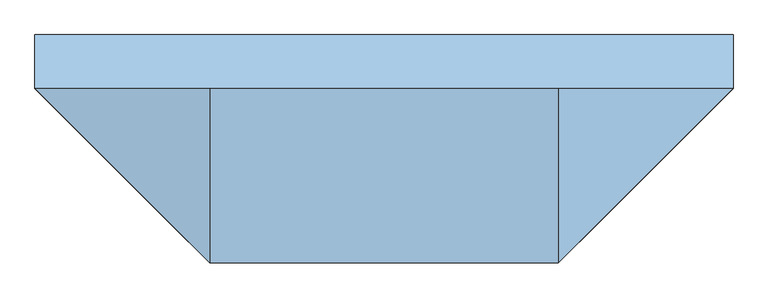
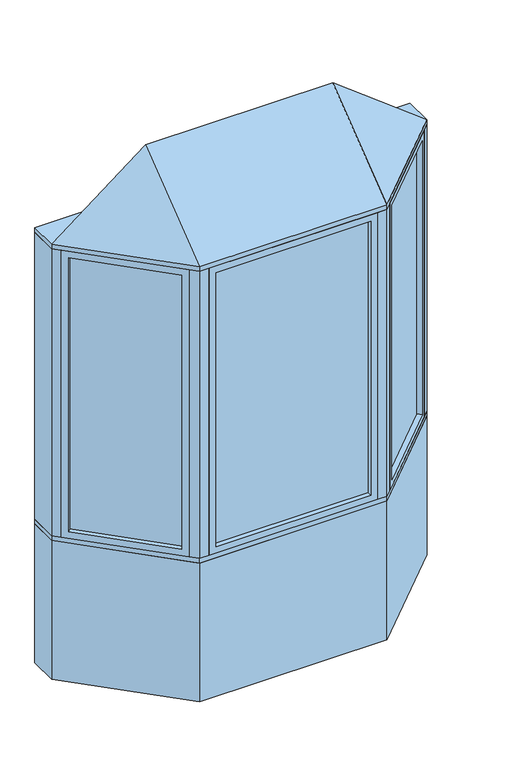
"""IFC4 building model written with IfcOpenShell, lengths in millimetres: window geometry, Pollard_Windows_Tudor Casement Bows and Bays : AML-BAY 45 AFR0516-10-600."""

from ifc_helpers import new_model, si_unit, frame, origin, origin_with_axes, place, context, project, spatial, polyline, outline, extrude, faceted_brep, source, transform, mapped, element, save


def window_58309fd9(model_context):
    return source(origin(), model_context, "Body", "SolidModel", [
        extrude(outline(polyline([(924.0964271, -104.763169), (528.474814, -500.3847822), (524.8827115, -496.7926797), (920.5043247, -101.1710666), (924.0964271, -104.763169)])), frame((0.0, 0.0, 823.1628), z_axis=(0.0, 0.0, 1.0), x_axis=(1.0, 0.0, 0.0)), (0.0, 0.0, 1.0), 1553.6704),
        faceted_brep([(915.116171, -113.7434252, 835.8628), (933.0766833, -131.7039374, 835.8628), (933.0766833, -131.7039374, 2364.1332), (915.116171, -113.7434252, 2364.1332), (920.5043247, -101.1710666, 823.1628), (924.0964271, -104.763169, 823.1628), (924.0964271, -104.763169, 2376.8332), (920.5043247, -101.1710666, 2376.8332), (893.5635563, -92.1908105, 835.8628), (911.5240686, -110.1513227, 835.8628), (911.5240686, -110.1513227, 2364.1332), (893.5635563, -92.1908105, 2364.1332), (958.4369265, -106.3436941, 799.998), (918.9237996, -66.8305672, 799.998), (918.9237996, -66.8305672, 2399.998), (958.4369265, -106.3436941, 2399.998), (555.4155823, -509.3650383, 2364.1332), (537.4550701, -491.4045261, 2364.1332), (528.474814, -500.3847822, 2376.8332), (524.8827115, -496.7926797, 2376.8332), (533.8629677, -487.8124236, 2364.1332), (515.9024554, -469.8519114, 2364.1332), (490.5422121, -495.2121547, 2399.998), (530.0553391, -534.7252816, 2399.998), (555.4155823, -509.3650383, 835.8628), (537.4550701, -491.4045261, 835.8628), (528.474814, -500.3847822, 823.1628), (524.8827115, -496.7926797, 823.1628), (533.8629677, -487.8124236, 835.8628), (515.9024554, -469.8519114, 835.8628), (490.5422121, -495.2121547, 799.998), (530.0553391, -534.7252816, 799.998)], [[[0, 1, 2, 3]], [[4, 5, 6, 7]], [[8, 9, 10, 11]], [[12, 13, 14, 15]], [[3, 2, 16, 17]], [[7, 6, 18, 19]], [[11, 10, 20, 21]], [[15, 14, 22, 23]], [[17, 16, 24, 25]], [[19, 18, 26, 27]], [[21, 20, 28, 29]], [[23, 22, 30, 31]], [[25, 24, 1, 0]], [[5, 26, 18, 6], [3, 17, 25, 0]], [[27, 26, 5, 4]], [[7, 19, 27, 4], [9, 28, 20, 10]], [[29, 28, 9, 8]], [[13, 30, 22, 14], [11, 21, 29, 8]], [[31, 30, 13, 12]], [[15, 23, 31, 12], [1, 24, 16, 2]]]),
        extrude(outline(polyline([(-528.474814, -500.3847822), (-924.0964271, -104.763169), (-920.5043247, -101.1710666), (-524.8827115, -496.7926797), (-528.474814, -500.3847822)])), frame((0.0, 0.0, 823.1628), z_axis=(0.0, 0.0, 1.0), x_axis=(1.0, 0.0, 0.0)), (0.0, 0.0, 1.0), 1553.6704),
        faceted_brep([(-533.8629677, -487.8124236, 2364.1332), (-515.9024554, -469.8519114, 2364.1332), (-515.9024554, -469.8519114, 835.8628), (-533.8629677, -487.8124236, 835.8628), (-528.474814, -500.3847822, 2376.8332), (-524.8827115, -496.7926797, 2376.8332), (-524.8827115, -496.7926797, 823.1628), (-528.474814, -500.3847822, 823.1628), (-555.4155823, -509.3650383, 2364.1332), (-537.4550701, -491.4045261, 2364.1332), (-537.4550701, -491.4045261, 835.8628), (-555.4155823, -509.3650383, 835.8628), (-490.5422121, -495.2121547, 2399.998), (-530.0553391, -534.7252816, 2399.998), (-530.0553391, -534.7252816, 799.998), (-490.5422121, -495.2121547, 799.998), (-893.5635563, -92.1908105, 835.8628), (-911.5240686, -110.1513227, 835.8628), (-920.5043247, -101.1710666, 823.1628), (-924.0964271, -104.763169, 823.1628), (-915.116171, -113.7434252, 835.8628), (-933.0766833, -131.7039374, 835.8628), (-958.4369265, -106.3436941, 799.998), (-918.9237996, -66.8305672, 799.998), (-893.5635563, -92.1908105, 2364.1332), (-911.5240686, -110.1513227, 2364.1332), (-920.5043247, -101.1710666, 2376.8332), (-924.0964271, -104.763169, 2376.8332), (-915.116171, -113.7434252, 2364.1332), (-933.0766833, -131.7039374, 2364.1332), (-958.4369265, -106.3436941, 2399.998), (-918.9237996, -66.8305672, 2399.998)], [[[0, 1, 2, 3]], [[4, 5, 6, 7]], [[8, 9, 10, 11]], [[12, 13, 14, 15]], [[3, 2, 16, 17]], [[7, 6, 18, 19]], [[11, 10, 20, 21]], [[15, 14, 22, 23]], [[17, 16, 24, 25]], [[19, 18, 26, 27]], [[21, 20, 28, 29]], [[23, 22, 30, 31]], [[15, 23, 31, 12], [1, 24, 16, 2]], [[25, 24, 1, 0]], [[5, 26, 18, 6], [3, 17, 25, 0]], [[27, 26, 5, 4]], [[7, 19, 27, 4], [9, 28, 20, 10]], [[29, 28, 9, 8]], [[13, 30, 22, 14], [11, 21, 29, 8]], [[31, 30, 13, 12]]]),
        extrude(outline(polyline([(421.5352, -544.6806207), (-421.5352, -544.6806207), (-421.5352, -539.6006207), (421.5352, -539.6006207), (421.5352, -544.6806207)])), frame((0.0, 0.0, 823.1628), z_axis=(0.0, 0.0, 1.0), x_axis=(1.0, 0.0, 0.0)), (0.0, 0.0, 1.0), 1553.6704),
        faceted_brep([(408.8352, -544.6806207, 835.8628), (408.8352, -570.0806207, 835.8628), (408.8352, -570.0806207, 2364.1332), (408.8352, -544.6806207, 2364.1332), (421.5352, -539.6006207, 823.1628), (421.5352, -544.6806207, 823.1628), (421.5352, -544.6806207, 2376.8332), (421.5352, -539.6006207, 2376.8332), (408.8352, -514.2006207, 835.8628), (408.8352, -539.6006207, 835.8628), (408.8352, -539.6006207, 2364.1332), (408.8352, -514.2006207, 2364.1332), (444.7, -570.0806207, 799.998), (444.7, -514.2006207, 799.998), (444.7, -514.2006207, 2399.998), (444.7, -570.0806207, 2399.998), (-408.8352, -570.0806207, 2364.1332), (-408.8352, -544.6806207, 2364.1332), (-421.5352, -544.6806207, 2376.8332), (-421.5352, -539.6006207, 2376.8332), (-408.8352, -539.6006207, 2364.1332), (-408.8352, -514.2006207, 2364.1332), (-444.7, -514.2006207, 2399.998), (-444.7, -570.0806207, 2399.998), (-408.8352, -570.0806207, 835.8628), (-408.8352, -544.6806207, 835.8628), (-421.5352, -544.6806207, 823.1628), (-421.5352, -539.6006207, 823.1628), (-408.8352, -539.6006207, 835.8628), (-408.8352, -514.2006207, 835.8628), (-444.7, -514.2006207, 799.998), (-444.7, -570.0806207, 799.998)], [[[0, 1, 2, 3]], [[4, 5, 6, 7]], [[8, 9, 10, 11]], [[12, 13, 14, 15]], [[3, 2, 16, 17]], [[7, 6, 18, 19]], [[11, 10, 20, 21]], [[15, 14, 22, 23]], [[17, 16, 24, 25]], [[19, 18, 26, 27]], [[21, 20, 28, 29]], [[23, 22, 30, 31]], [[15, 23, 31, 12], [1, 24, 16, 2]], [[25, 24, 1, 0]], [[5, 26, 18, 6], [3, 17, 25, 0]], [[27, 26, 5, 4]], [[7, 19, 27, 4], [9, 28, 20, 10]], [[29, 28, 9, 8]], [[13, 30, 22, 14], [11, 21, 29, 8]], [[31, 30, 13, 12]]]),
        faceted_brep([(990.0, -74.7806207, 2425.398), (494.7, -570.0806207, 2425.398), (-494.7, -570.0806207, 2425.398), (-990.0, -74.7806207, 2425.398), (-494.7, -74.7806207, 2806.398), (494.7, -74.7806207, 2806.398)], [[[0, 1, 2, 3]], [[3, 2, 4]], [[2, 1, 5, 4]], [[1, 0, 5]], [[0, 3, 4, 5]]]),
        extrude(outline(polyline([(-990.0, 77.6193793), (990.0, 77.6193793), (990.0, -74.7806207), (494.7, -570.0806207), (-494.7, -570.0806207), (-990.0, -74.7806207), (-990.0, 77.6193793)])), frame((0.0, 0.0, 2399.998), z_axis=(0.0, 0.0, 1.0), x_axis=(1.0, 0.0, 0.0)), (0.0, 0.0, 1.0), 25.4),
        extrude(outline(polyline([(-990.0, -74.7806207), (-990.0, 77.6193793), (-926.8738531, 77.6193793), (-926.8738531, -74.7806207), (-958.4369265, -106.3436941), (-990.0, -74.7806207)])), frame((0.0, 0.0, 799.998), z_axis=(0.0, 0.0, 1.0), x_axis=(1.0, 0.0, 0.0)), (0.0, 0.0, 1.0), 1600.0),
        extrude(outline(polyline([(990.0, 77.6193793), (990.0, -74.7806207), (958.4369265, -106.3436941), (926.8738531, -74.7806207), (926.8738531, 77.6193793), (990.0, 77.6193793)])), frame((0.0, 0.0, 799.998), z_axis=(0.0, 0.0, 1.0), x_axis=(1.0, 0.0, 0.0)), (0.0, 0.0, 1.0), 1600.0),
        extrude(outline(polyline([(494.7, -570.0806207), (444.7, -570.0806207), (444.7, -520.0806207), (473.9893219, -520.0806207), (494.7, -499.3699425), (530.0553391, -534.7252816), (494.7, -570.0806207)])), frame((0.0, 0.0, 799.998), z_axis=(0.0, 0.0, 1.0), x_axis=(1.0, 0.0, 0.0)), (0.0, 0.0, 1.0), 1600.0),
        extrude(outline(polyline([(-494.7, -570.0806207), (-530.0553391, -534.7252816), (-494.7, -499.3699425), (-473.9893219, -520.0806207), (-444.7, -520.0806207), (-444.7, -570.0806207), (-494.7, -570.0806207)])), frame((0.0, 0.0, 799.998), z_axis=(0.0, 0.0, 1.0), x_axis=(1.0, 0.0, 0.0)), (0.0, 0.0, 1.0), 1600.0),
        extrude(outline(polyline([(-494.7, -570.0806207), (-990.0, -74.7806207), (-990.0, 77.6193793), (-926.8738531, 77.6193793), (-431.5738531, -417.6806207), (431.5738531, -417.6806207), (926.8738531, 77.6193793), (990.0, 77.6193793), (990.0, -74.7806207), (494.7, -570.0806207), (-494.7, -570.0806207)])), frame((0.0, 0.0, 774.598), z_axis=(0.0, 0.0, 1.0), x_axis=(1.0, 0.0, 0.0)), (0.0, 0.0, 1.0), 25.4),
        extrude(outline(polyline([(-990.0, -74.7806207), (-990.0, 77.6193793), (-926.8738531, 77.6193793), (-431.5738531, -417.6806207), (431.5738531, -417.6806207), (926.8738531, 77.6193793), (990.0, 77.6193793), (990.0, -74.7806207), (494.7, -570.0806207), (-494.7, -570.0806207), (-990.0, -74.7806207)])), origin_with_axes(), (0.0, 0.0, 1.0), 774.598),
    ])


if __name__ == "__main__":
    model = new_model("IFC4")
    model_context = context("Model", 3, world=origin())
    ifc_project = project(units=[si_unit("LENGTHUNIT", "METRE", prefix="MILLI")], contexts=[model_context])
    site = spatial("IfcSite", under=ifc_project)
    building = spatial("IfcBuilding", under=site)
    placement = place(None, origin())
    window_shape = window_58309fd9(model_context)
    element("IfcWindow", 1, ObjectType="Pollard_Windows_Tudor Casement Bows and Bays : AML-BAY 45 AFR0516-10-600", at=placement, inside=building, context=model_context, shape_type="MappedRepresentation", body=[
        mapped(window_shape, transform((0.0, 0.0, 0.0), x_axis=(1.0, 0.0, 0.0), y_axis=(0.0, 1.0, 0.0), z_axis=(0.0, 0.0, 1.0))),
    ])
    save(model, "model.ifc")
